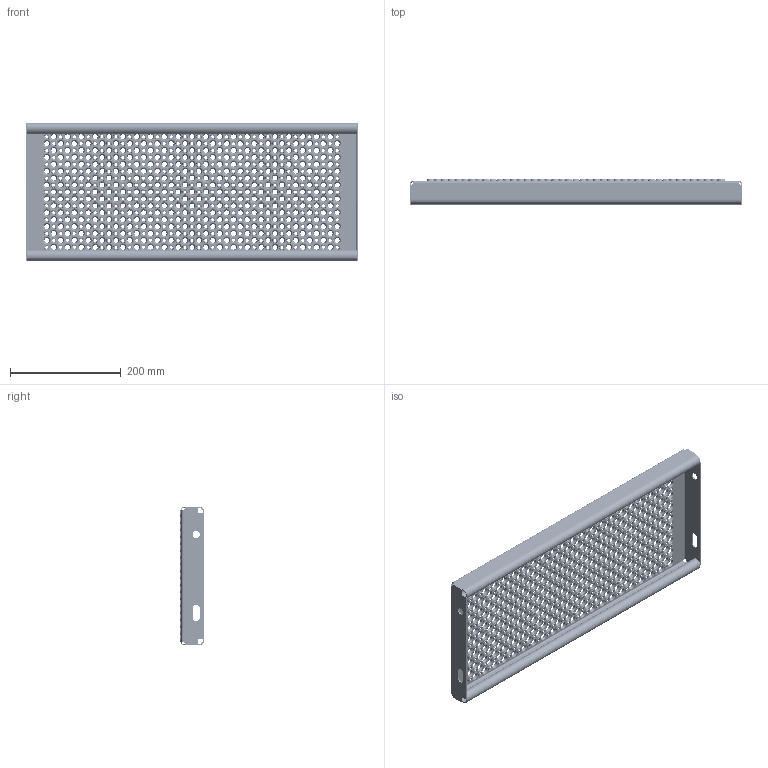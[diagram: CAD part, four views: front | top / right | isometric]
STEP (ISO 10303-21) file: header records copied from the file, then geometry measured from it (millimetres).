
FILE_DESCRIPTION (( 'STEP AP214' ), '1' );
FILE_NAME ('OPTIMO-Tread-Achil-O2-600x250x45x2-st240-F100310100.STEP', '2021-03-16T09:38:04', ( '' ), ( '' ), 'SwSTEP 2.0', 'SolidWorks 2021', '' );
FILE_SCHEMA (( 'AUTOMOTIVE_DESIGN' ));
Length unit declared in the file: millimetre
Products named in the file (1): OPTIMO-Tread-Achil-O2-600x250x45x2-st240-F100310100
Bounding box: 600 x 45 x 250 mm (x, y, z)
Volume: 523643.7 mm3; surface area: 568177.3 mm2
Topology: 1 solids, 1 shells, 8252 faces, 21442 edges, 13192 vertices
Faces by surface type: cone 4902, torus 3268, plane 38, cylinder 36, bspline 8
Entity records: 262720 total; most frequent: DIRECTION 54296, CARTESIAN_POINT 43479, ORIENTED_EDGE 42884, AXIS2_PLACEMENT_3D 24641, EDGE_CURVE 21442, CIRCLE 16396, VERTEX_POINT 13192, EDGE_LOOP 9894
